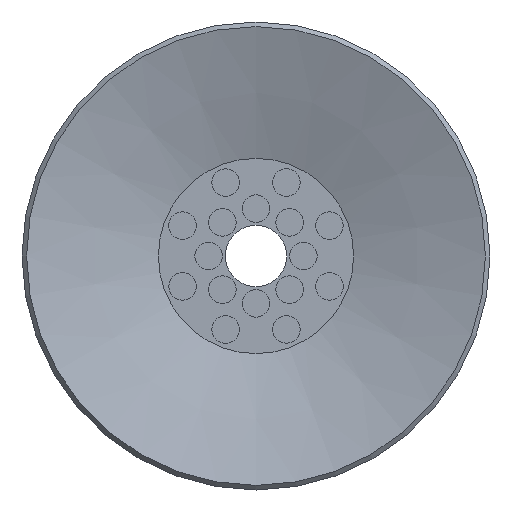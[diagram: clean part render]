
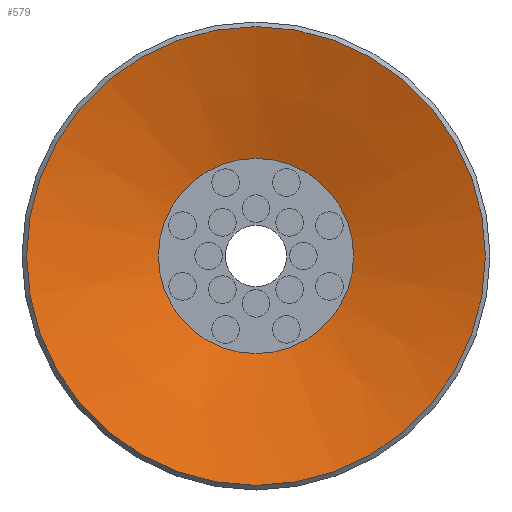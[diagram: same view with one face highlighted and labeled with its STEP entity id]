
A CAD part, front view. The second image highlights one B-rep face of the part: STEP entity #579.
In plain terms, the highlighted conical face has half-angle 72 degrees and reference radius 7.5 mm.
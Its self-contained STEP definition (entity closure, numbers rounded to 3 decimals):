
#579=ADVANCED_FACE('',(#950,#951),#952,.F.);
#950=FACE_BOUND('',#1613,.T.);
#951=FACE_OUTER_BOUND('',#1614,.T.);
#952=CONICAL_SURFACE('',#1615,7.5,1.257);
#1613=EDGE_LOOP('',(#2543));
#1614=EDGE_LOOP('',(#2544));
#1615=AXIS2_PLACEMENT_3D('',#2545,#2546,#2547);
#2543=ORIENTED_EDGE('',*,*,#2993,.T.);
#2544=ORIENTED_EDGE('',*,*,#2994,.F.);
#2545=CARTESIAN_POINT('',(0.0,0.,0.));
#2546=DIRECTION('',(0.0,0.,-1.0));
#2547=DIRECTION('',(0.0,1.0,0.));
#2993=EDGE_CURVE('',#3420,#3420,#3421,.T.);
#2994=EDGE_CURVE('',#3422,#3422,#3423,.T.);
#3420=VERTEX_POINT('',#4506);
#3421=CIRCLE('',#4507,3.191);
#3422=VERTEX_POINT('',#4508);
#3423=CIRCLE('',#4509,7.5);
#4506=CARTESIAN_POINT('',(0.0,-3.191,1.4));
#4507=AXIS2_PLACEMENT_3D('',#4947,#4948,#4949);
#4508=CARTESIAN_POINT('',(0.0,-7.5,0.));
#4509=AXIS2_PLACEMENT_3D('',#4950,#4951,#4952);
#4947=CARTESIAN_POINT('',(0.0,0.,1.4));
#4948=DIRECTION('',(0.0,0.,1.0));
#4949=DIRECTION('',(0.0,-1.0,0.));
#4950=CARTESIAN_POINT('',(0.0,0.,0.));
#4951=DIRECTION('',(0.0,0.,1.0));
#4952=DIRECTION('',(0.0,-1.0,0.));
